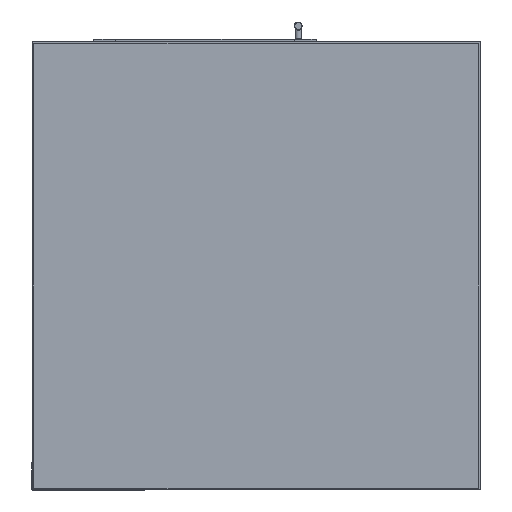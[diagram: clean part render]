
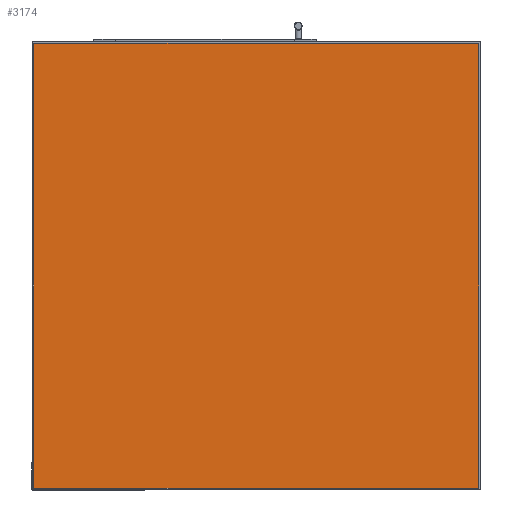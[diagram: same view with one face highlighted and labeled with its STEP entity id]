
A CAD part, front view. The second image highlights one B-rep face of the part: STEP entity #3174.
In plain terms, the highlighted planar face has unit normal (0, -1, 0).
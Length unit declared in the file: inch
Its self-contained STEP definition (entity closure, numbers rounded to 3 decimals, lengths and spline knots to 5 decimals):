
#227=FACE_OUTER_BOUND('',#400,.T.);
#400=EDGE_LOOP('',(#2435,#2436,#2437,#2438));
#685=LINE('',#5713,#1049);
#689=LINE('',#5720,#1053);
#691=LINE('',#5725,#1055);
#693=LINE('',#5728,#1057);
#1049=VECTOR('',#3991,0.3937);
#1053=VECTOR('',#3997,0.3937);
#1055=VECTOR('',#4001,0.3937);
#1057=VECTOR('',#4005,0.3937);
#1414=VERTEX_POINT('',#5710);
#1415=VERTEX_POINT('',#5712);
#1417=VERTEX_POINT('',#5718);
#1419=VERTEX_POINT('',#5724);
#1781=EDGE_CURVE('',#1415,#1414,#685,.T.);
#1785=EDGE_CURVE('',#1414,#1417,#689,.T.);
#1787=EDGE_CURVE('',#1415,#1419,#691,.T.);
#1789=EDGE_CURVE('',#1419,#1417,#693,.T.);
#2435=ORIENTED_EDGE('',*,*,#1781,.T.);
#2436=ORIENTED_EDGE('',*,*,#1785,.T.);
#2437=ORIENTED_EDGE('',*,*,#1789,.F.);
#2438=ORIENTED_EDGE('',*,*,#1787,.F.);
#2867=PLANE('',#3415);
#3174=ADVANCED_FACE('',(#227),#2867,.T.);
#3415=AXIS2_PLACEMENT_3D('',#5727,#4003,#4004);
#3991=DIRECTION('',(1.,0.,0.));
#3997=DIRECTION('',(0.,0.,1.));
#4001=DIRECTION('',(0.,0.,1.));
#4003=DIRECTION('center_axis',(0.,-1.,0.));
#4004=DIRECTION('ref_axis',(1.,0.,0.));
#4005=DIRECTION('',(1.,0.,0.));
#5710=CARTESIAN_POINT('',(71.75,-1.38605,-1.67822));
#5712=CARTESIAN_POINT('',(0.25,-1.38605,-1.67822));
#5713=CARTESIAN_POINT('',(0.25,-1.38605,-1.67822));
#5718=CARTESIAN_POINT('',(71.75,-1.38605,69.82178));
#5720=CARTESIAN_POINT('',(71.75,-1.38605,-1.67822));
#5724=CARTESIAN_POINT('',(0.25,-1.38605,69.82178));
#5725=CARTESIAN_POINT('',(0.25,-1.38605,-1.67822));
#5727=CARTESIAN_POINT('Origin',(0.25,-1.38605,-1.67822));
#5728=CARTESIAN_POINT('',(0.25,-1.38605,69.82178));
